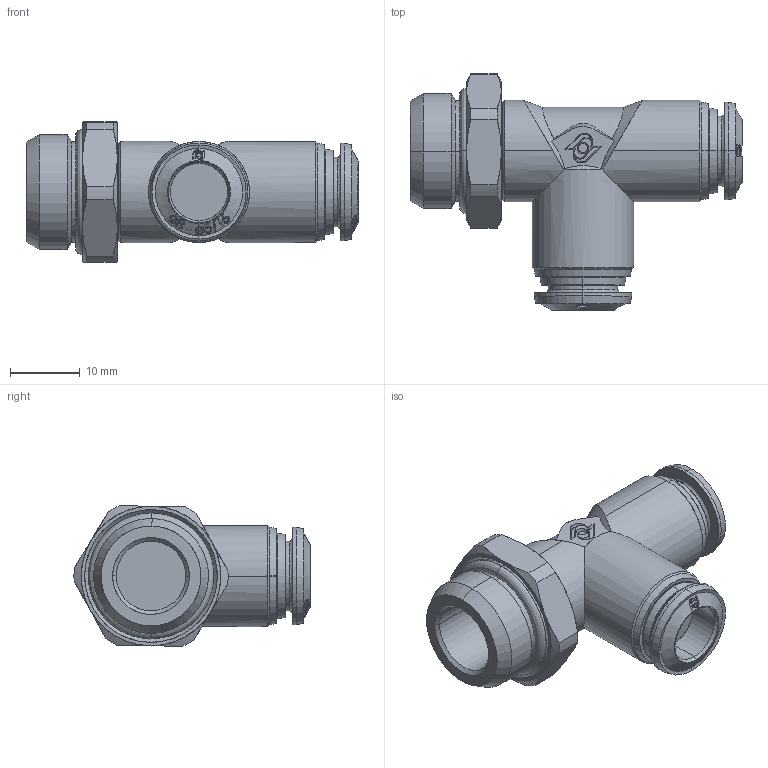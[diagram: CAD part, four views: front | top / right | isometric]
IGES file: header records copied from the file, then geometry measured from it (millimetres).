
Start section: SolidWorks IGES file using analytic representation for surfaces
Global section: file name: K:\Disegni Esecutivi\Serie 50000\ASSIEMI_50000\50226\ASSIEMI_PIENI_50226\5022600012.IGS; native system: SolidWorks 2008; preprocessor: SolidWorks 2008; author: cad02; date: 080523.095249; units: millimetre
Bounding box: 47.6 x 33.85 x 20.17 mm (x, y, z)
Surface area: 5207.3 mm2 (no closed solid volume)
Topology: 0 solids, 0 shells, 459 faces, 5351 edges, 5345 vertices
Faces by surface type: bspline 304, revolution 155
